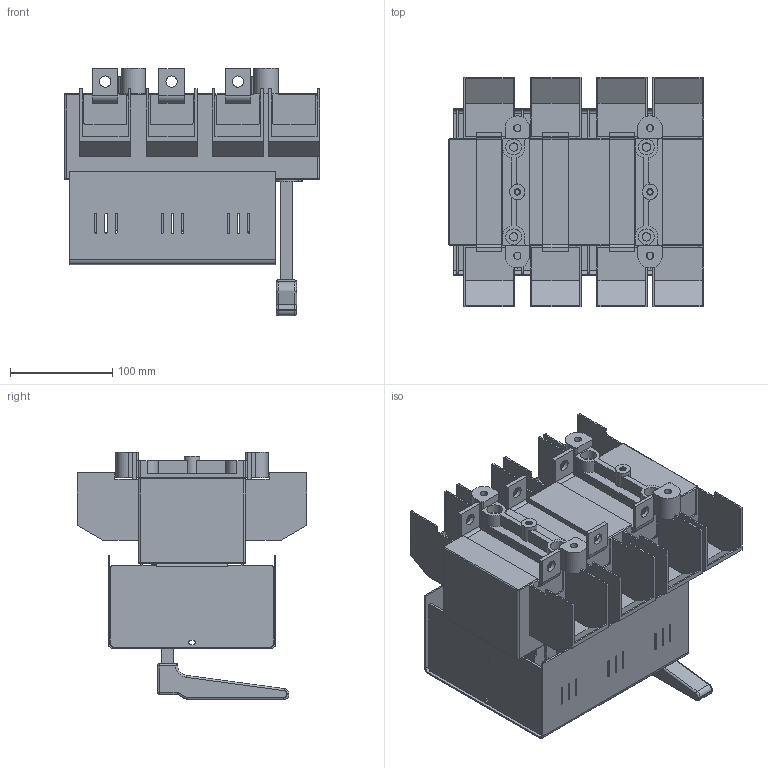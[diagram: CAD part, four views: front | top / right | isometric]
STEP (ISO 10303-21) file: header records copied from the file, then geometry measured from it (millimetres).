
FILE_DESCRIPTION(/* description */ (''),/* implementation_level */ '2;1');
FILE_NAME(/* name */ 'RAB 1 P3 C-R z oslona zaciskow.stp',/* time_stamp */ '2021-08-19T12:53:41+02:00',/* author */ (''),/* organization */ (''),/* preprocessor_version */ 'ST-DEVELOPER v18.1',/* originating_system */ 'SIEMENS PLM Software NX 1965',/* authorisation */ '');
FILE_SCHEMA (('AUTOMOTIVE_DESIGN { 1 0 10303 214 3 1 1 1 }'));
Length unit declared in the file: millimetre
Products named in the file (1): RAB 1 P3 C-R z oslona zaciskow
Bounding box: 250 x 225 x 242.3 mm (x, y, z)
Volume: 2647436.7 mm3; surface area: 608001.2 mm2
Topology: 1 solids, 1 shells, 1262 faces, 3499 edges, 2275 vertices
Faces by surface type: plane 859, cylinder 381, bspline 8, torus 8, sphere 6
Full cylindrical faces by diameter (mm): 4.8 x2, 6.2 x2, 7 x4, 8.2 x4, 11 x6, 14 x4, 15 x2, 15.5 x4
Entity records: 40277 total; most frequent: CARTESIAN_POINT 7177, ORIENTED_EDGE 6922, DIRECTION 6781, EDGE_CURVE 3461, LINE 2635, VECTOR 2635, VERTEX_POINT 2268, AXIS2_PLACEMENT_3D 2073
